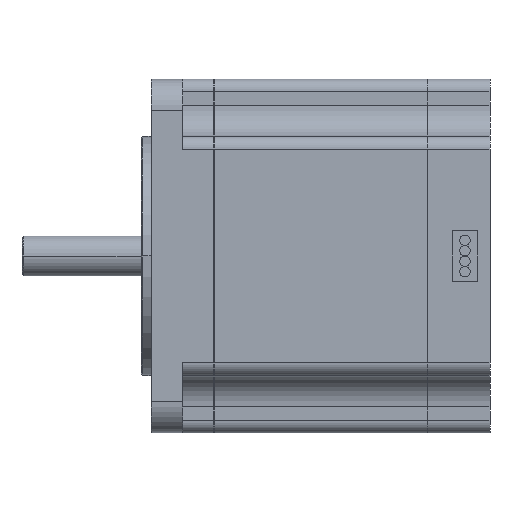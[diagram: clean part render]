
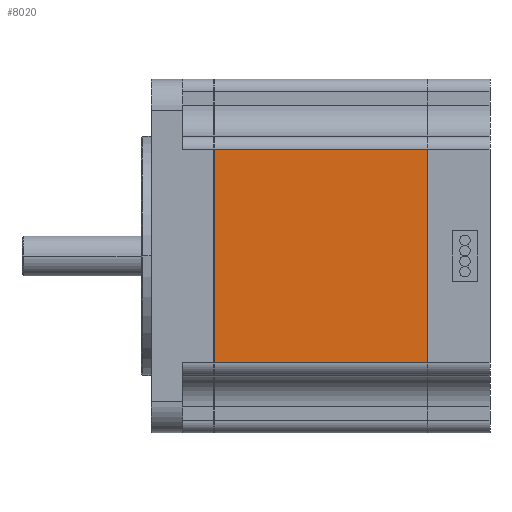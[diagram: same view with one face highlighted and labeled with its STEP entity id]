
A CAD part, front view. The second image highlights one B-rep face of the part: STEP entity #8020.
In plain terms, the highlighted planar face has unit normal (0, -1, 0).
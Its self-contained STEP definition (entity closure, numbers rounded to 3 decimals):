
#302 = VERTEX_POINT ( 'NONE', #12186 ) ;
#776 = VECTOR ( 'NONE', #8292, 1000. ) ;
#889 = VECTOR ( 'NONE', #5953, 1000. ) ;
#1074 = ORIENTED_EDGE ( 'NONE', *, *, #3147, .T. ) ;
#1206 = LINE ( 'NONE', #9092, #9052 ) ;
#1390 = EDGE_CURVE ( 'NONE', #6496, #8284, #9247, .T. ) ;
#1636 = CARTESIAN_POINT ( 'NONE',  ( 10.01, -28.2, 17.05 ) ) ;
#1681 = AXIS2_PLACEMENT_3D ( 'NONE', #10735, #11700, #5911 ) ;
#2203 = ORIENTED_EDGE ( 'NONE', *, *, #11076, .F. ) ;
#3147 = EDGE_CURVE ( 'NONE', #5249, #6496, #9354, .T. ) ;
#3555 = ORIENTED_EDGE ( 'NONE', *, *, #7986, .F. ) ;
#3968 = PLANE ( 'NONE',  #1681 ) ;
#4003 = DIRECTION ( 'NONE',  ( 0., 0., -1. ) ) ;
#4571 = LINE ( 'NONE', #11658, #10031 ) ;
#4946 = CARTESIAN_POINT ( 'NONE',  ( 43.99, -28.2, 17.05 ) ) ;
#5249 = VERTEX_POINT ( 'NONE', #11275 ) ;
#5337 = CARTESIAN_POINT ( 'NONE',  ( 10.01, -28.2, 17.05 ) ) ;
#5911 = DIRECTION ( 'NONE',  ( 0., 0., 1. ) ) ;
#5953 = DIRECTION ( 'NONE',  ( -1., 0., 0. ) ) ;
#6496 = VERTEX_POINT ( 'NONE', #1636 ) ;
#7986 = EDGE_CURVE ( 'NONE', #5249, #302, #4571, .T. ) ;
#8020 = ADVANCED_FACE ( 'NONE', ( #9730 ), #3968, .F. ) ;
#8284 = VERTEX_POINT ( 'NONE', #12380 ) ;
#8292 = DIRECTION ( 'NONE',  ( 0., 0., -1. ) ) ;
#9052 = VECTOR ( 'NONE', #10947, 1000. ) ;
#9092 = CARTESIAN_POINT ( 'NONE',  ( 43.99, -28.2, -17.05 ) ) ;
#9247 = LINE ( 'NONE', #5337, #776 ) ;
#9354 = LINE ( 'NONE', #4946, #889 ) ;
#9730 = FACE_OUTER_BOUND ( 'NONE', #10266, .T. ) ;
#10031 = VECTOR ( 'NONE', #4003, 1000. ) ;
#10266 = EDGE_LOOP ( 'NONE', ( #12334, #2203, #3555, #1074 ) ) ;
#10735 = CARTESIAN_POINT ( 'NONE',  ( 43.99, -28.2, 17.05 ) ) ;
#10947 = DIRECTION ( 'NONE',  ( -1., 0., 0. ) ) ;
#11076 = EDGE_CURVE ( 'NONE', #302, #8284, #1206, .T. ) ;
#11275 = CARTESIAN_POINT ( 'NONE',  ( 43.99, -28.2, 17.05 ) ) ;
#11658 = CARTESIAN_POINT ( 'NONE',  ( 43.99, -28.2, 17.05 ) ) ;
#11700 = DIRECTION ( 'NONE',  ( 0., 1., 0. ) ) ;
#12186 = CARTESIAN_POINT ( 'NONE',  ( 43.99, -28.2, -17.05 ) ) ;
#12334 = ORIENTED_EDGE ( 'NONE', *, *, #1390, .T. ) ;
#12380 = CARTESIAN_POINT ( 'NONE',  ( 10.01, -28.2, -17.05 ) ) ;
